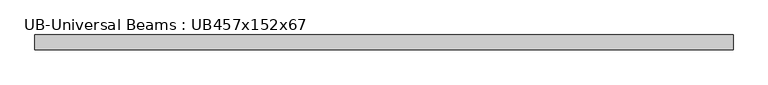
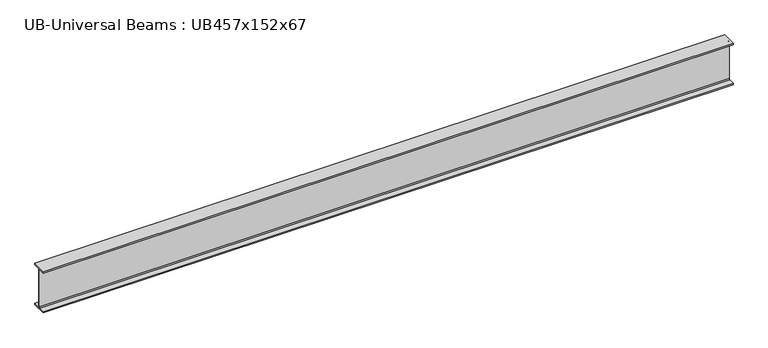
"""IFC4 building model written with IfcOpenShell, lengths in millimetres: beam geometry, UB-Universal Beams : UB457x152x67."""

from ifc_helpers import new_model, si_unit, point, frame, frame_2d, origin, place, context, project, spatial, polyline, circle_curve, trimmed, segment, composite_curve, outline, extrude, source, transform, mapped, element, save


def ub_universal_beams_ub457x152x67_568b5c51(model_context):
    return source(origin(), model_context, "Body", "SweptSolid", [
        extrude(outline(composite_curve([segment(polyline([(76.9, -214.0), (76.9, -229.0), (-76.9, -229.0), (-76.9, -214.0), (-14.7, -214.0)]), True, "CONTINUOUS"), segment(trimmed(circle_curve(frame_2d((-14.7, -203.8)), 10.2), [point((-14.7, -214.0))], [point((-4.5, -203.8))], True, "CARTESIAN"), True, "CONTINUOUS"), segment(polyline([(-4.5, -203.8), (-4.5, 203.8)]), True, "CONTINUOUS"), segment(trimmed(circle_curve(frame_2d((-14.7, 203.8)), 10.2), [point((-4.5, 203.8))], [point((-14.7, 214.0))], True, "CARTESIAN"), True, "CONTINUOUS"), segment(polyline([(-14.7, 214.0), (-76.9, 214.0), (-76.9, 229.0), (76.9, 229.0), (76.9, 214.0), (14.7, 214.0)]), True, "CONTINUOUS"), segment(trimmed(circle_curve(frame_2d((14.7, 203.8)), 10.2), [point((14.7, 214.0))], [point((4.5, 203.8))], True, "CARTESIAN"), True, "CONTINUOUS"), segment(polyline([(4.5, 203.8), (4.5, -203.8)]), True, "CONTINUOUS"), segment(trimmed(circle_curve(frame_2d((14.7, -203.8)), 10.2), [point((4.5, -203.8))], [point((14.7, -214.0))], True, "CARTESIAN"), True, "CONTINUOUS"), segment(polyline([(14.7, -214.0), (76.9, -214.0)]), True, "CONTINUOUS")], self_intersect=False)), frame((-3606.6, 0.0, 0.0), z_axis=(1.0, 0.0, 0.0), x_axis=(0.0, 1.0, 0.0)), (0.0, 0.0, 1.0), 7240.7),
    ])


if __name__ == "__main__":
    model = new_model("IFC4")
    model_context = context("Model", 3, world=origin())
    ifc_project = project(units=[si_unit("LENGTHUNIT", "METRE", prefix="MILLI")], contexts=[model_context])
    site = spatial("IfcSite", under=ifc_project)
    building = spatial("IfcBuilding", under=site)
    placement = place(None, origin())
    ub_universal_beams_ub457x152x67_shape = ub_universal_beams_ub457x152x67_568b5c51(model_context)
    element("IfcBeam", 1, ObjectType="UB-Universal Beams : UB457x152x67", at=placement, inside=building, context=model_context, shape_type="MappedRepresentation", body=[
        mapped(ub_universal_beams_ub457x152x67_shape, transform((0.0, 0.0, 0.0), x_axis=(1.0, 0.0, 0.0), y_axis=(0.0, 1.0, 0.0), z_axis=(0.0, 0.0, 1.0))),
    ])
    save(model, "model.ifc")
